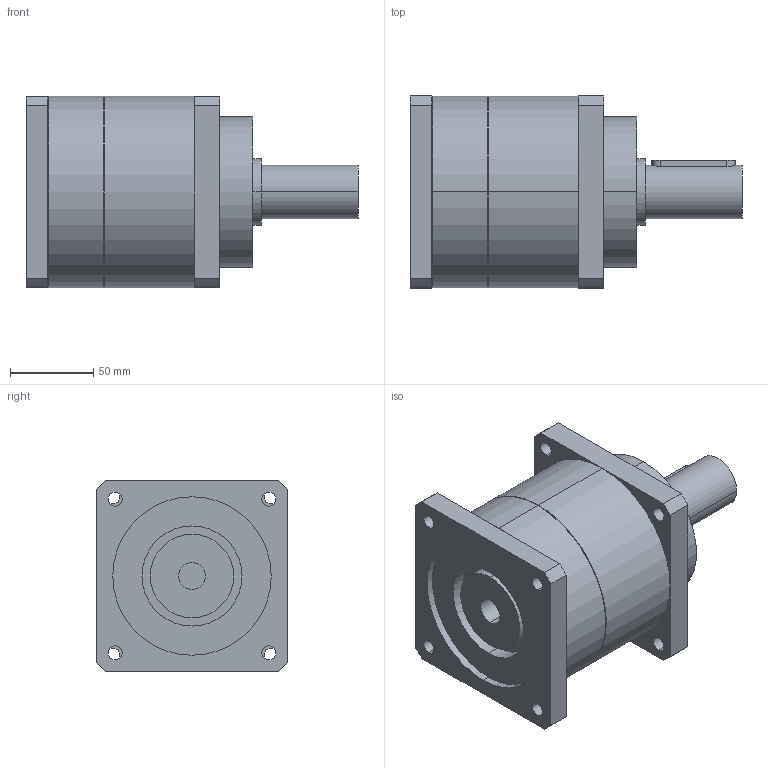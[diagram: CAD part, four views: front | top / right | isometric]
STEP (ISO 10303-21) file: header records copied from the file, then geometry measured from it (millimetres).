
FILE_DESCRIPTION(('CoCreate Modeling STEP Export'),'2;1');
FILE_NAME('GPT120_ig-3-4-5-7-10_32_B5A_16_P18.stp','2015-02-04T16:08:24',(''),(''),'CoCreate Modeling STEP processor for AP214 (Solid Model)','CoCreate Modeling 16.00C 25-Feb-2009 (C) Parametric Technology GmbH','');
FILE_SCHEMA(('AUTOMOTIVE_DESIGN { 1 0 10303 214 1 1 1 1 }'));
Length unit declared in the file: millimetre
Products named in the file (2): GPT120_ig-3-4-5-7-10_32_B5A_16_P18
Assembly tree (1 placements, depth 2):
  GPT120_ig-3-4-5-7-10_32_B5A_16_P18
    GPT120_ig-3-4-5-7-10_32_B5A_16_P18
Bounding box: 199 x 115 x 115 mm (x, y, z)
Volume: 1406818.8 mm3; surface area: 97752.6 mm2
Topology: 1 solids, 1 shells, 77 faces, 206 edges, 141 vertices
Faces by surface type: cylinder 46, plane 27, cone 4
Entity records: 2578 total; most frequent: CARTESIAN_POINT 761, ORIENTED_EDGE 412, DIRECTION 320, EDGE_CURVE 206, VERTEX_POINT 141, AXIS2_PLACEMENT_3D 118, EDGE_LOOP 103, VECTOR 84
